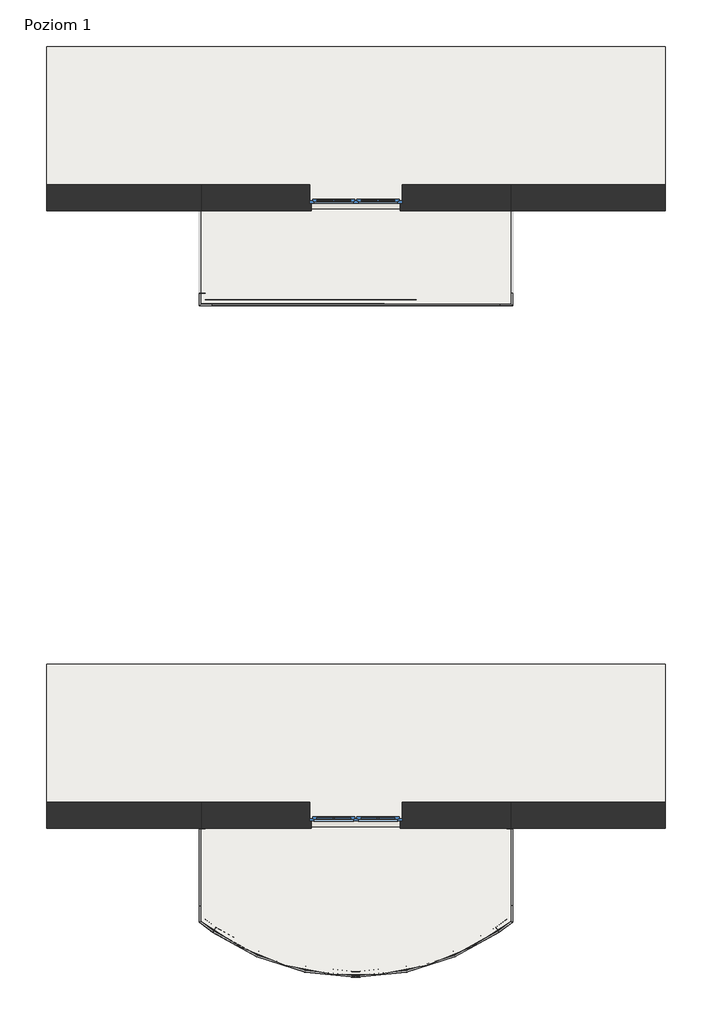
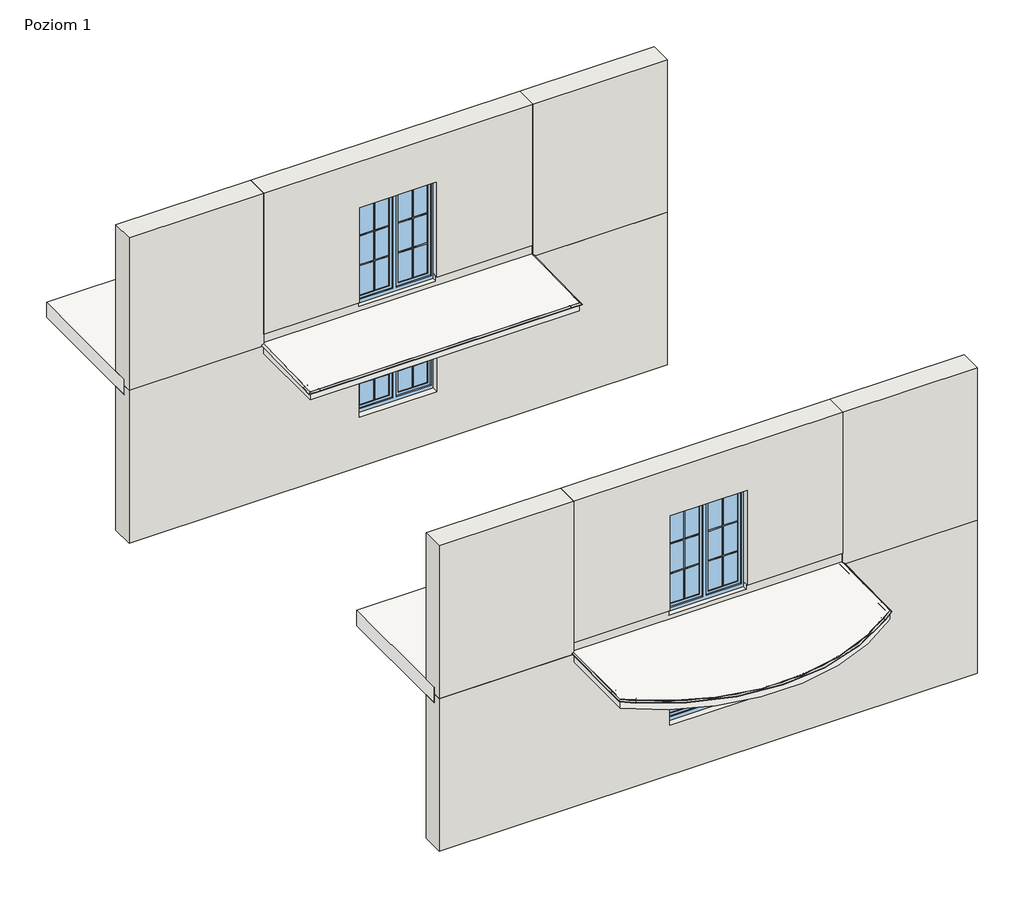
# One storey, part 1 of 3: 10 walls, 6 proxies, 4 slabs, 4 windows.
"""IFC4 building model written with IfcOpenShell, lengths in millimetres."""

from ifc_helpers import new_model, si_unit, frame, origin, place, context, project, spatial, circle_curve, ellipse_curve, faceted_brep, transform, mapped, element, save
from ifc_brep_helpers import plane_surface, cylinder_surface, advanced_brep
from components import k10_cc2a976c, k10_50ab023b, k10_6952bd4f, k10_43117dd3, opk10_a9e293d9, opk10_62074a0a, window_150x150_51b7f79a, window_150x200_12b14935

model = new_model("IFC4")

# Units and contexts
model_context = context("Model", 3, world=origin())
ifc_project = project(units=[si_unit("LENGTHUNIT", "METRE", prefix="MILLI")], contexts=[model_context])

# Site, building, storey
site = spatial("IfcSite", under=ifc_project)
building = spatial("IfcBuilding", under=site)
storey = spatial("IfcBuildingStorey", under=building, Name="Poziom 1", Elevation=0.0)

# Proxies
placement = place(None, origin())
k10_shape = k10_cc2a976c(model_context)
element("IfcBuildingElementProxy", 1, Name="K10 Profil okapowy prosty bez rynny : K10", ObjectType="K10 Profil okapowy prosty bez rynny : K10", at=placement, inside=storey, context=model_context, shape_type="MappedRepresentation", body=[
    mapped(k10_shape, transform((-109813.283815, 30865.2449587, -114.0), x_axis=(0.9999997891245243, -0.000649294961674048, -1.2921292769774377e-05), y_axis=(0.0006494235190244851, 0.9998018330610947, 0.01989655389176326), z_axis=(0.0, -0.019896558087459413, 0.9998020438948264))),
])
k10_2_shape = k10_50ab023b(model_context)
element("IfcBuildingElementProxy", 2, Name="K10 Profil okapowy prosty bez rynny : K10", ObjectType="K10 Profil okapowy prosty bez rynny : K10", at=placement, inside=storey, context=model_context, shape_type="MappedRepresentation", body=[
    mapped(k10_2_shape, transform((-104813.283815, 21133.3018143, -98.6625892), x_axis=(0.0, 0.9999247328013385, 0.012269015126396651), y_axis=(-1.0, 0.0, 0.0), z_axis=(0.0, -0.012269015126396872, 0.9999247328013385))),
])
k10_3_shape = k10_6952bd4f(model_context)
element("IfcBuildingElementProxy", 3, Name="K10 Profil okapowy prosty bez rynny : K10", ObjectType="K10 Profil okapowy prosty bez rynny : K10", at=placement, inside=storey, context=model_context, shape_type="MappedRepresentation", body=[
    mapped(k10_3_shape, transform((-109813.283815, 21133.4281621, -98.6610389), x_axis=(0.0, 0.9999247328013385, 0.012269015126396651), y_axis=(-1.0, 0.0, 0.0), z_axis=(0.0, -0.012269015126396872, 0.9999247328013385))),
])
k10_4_shape = k10_43117dd3(model_context)
element("IfcBuildingElementProxy", 4, Name="K10 Profil okapowy łukowy : K10", ObjectType="K10 Profil okapowy łukowy : K10", at=placement, inside=storey, context=model_context, shape_type="MappedRepresentation", body=[
    mapped(k10_4_shape, transform((-104813.283815, 20883.3028325, -101.7300613), x_axis=(-1.0, 0.0, 0.0), y_axis=(0.0, -0.9999247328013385, -0.012269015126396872), z_axis=(0.0, -0.012269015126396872, 0.9999247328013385))),
])
opk10_shape = opk10_a9e293d9(model_context)
element("IfcBuildingElementProxy", 5, Name="Odbojnik - OPK10 : OPK10", ObjectType="Odbojnik - OPK10 : OPK10", at=placement, inside=storey, context=model_context, shape_type="MappedRepresentation", body=[
    mapped(opk10_shape, transform((-104755.46477, 22376.9121913, -149.1888771), x_axis=(0.0, -0.9999247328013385, -0.012269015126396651), y_axis=(1.0, 0.0, 0.0), z_axis=(0.0, -0.012269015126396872, 0.9999247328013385))),
])
opk10_2_shape = opk10_62074a0a(model_context)
element("IfcBuildingElementProxy", 6, Name="Odbojnik - OPK10 : OPK10", ObjectType="Odbojnik - OPK10 : OPK10", at=placement, inside=storey, context=model_context, shape_type="MappedRepresentation", body=[
    mapped(opk10_2_shape, transform((-109871.10286, 22376.9121913, -149.1888771), x_axis=(0.0, -0.9999247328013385, -0.012269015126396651), y_axis=(1.0, 0.0, 0.0), z_axis=(0.0, -0.012269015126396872, 0.9999247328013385))),
])

# Slabs
element("IfcSlab", 7, ObjectType="Balkon - posadzka żywiczna cienkowarstwowa", at=placement, inside=storey, context=model_context, shape_type="Brep", body=[
    faceted_brep([(-109813.283815, 30865.2449587, -277.2), (-109813.283815, 32365.2449587, -277.2), (-109813.283815, 32473.2449587, -277.2), (-104813.283815, 32473.2449587, -277.2), (-104813.283815, 32365.2449587, -277.2), (-104813.283815, 30865.2449587, -277.2), (-109813.283815, 30865.2449587, -114.0), (-109813.283815, 32395.2449587, -83.5522388), (-109813.283815, 32473.2449587, -82.0), (-109813.283815, 32473.2449587, -125.0), (-104813.283815, 32473.2449587, -82.0), (-104813.283815, 32473.2449587, -125.0), (-104813.283815, 30865.2449587, -114.0), (-104813.283815, 32395.2449587, -83.5522388)], [[[0, 1, 2, 3, 4, 5]], [[2, 1, 0, 6, 7, 8, 9]], [[3, 2, 9, 8, 10, 11]], [[0, 5, 12, 6]], [[5, 4, 3, 11, 10, 13, 12]], [[12, 13, 10, 8, 7, 6]]]),
])
element("IfcSlab", 8, ObjectType="Balkon - posadzka żywiczna cienkowarstwowa", at=placement, inside=storey, context=model_context, shape_type="AdvancedBrep", body=[
    advanced_brep(
    [(-109813.283815, 22491.3028325, -277.2), (-104813.283815, 22491.3028325, -277.2), (-104813.283815, 22383.3028325, -277.2), (-104813.283815, 20883.3028325, -277.2), (-109813.283815, 20883.3028325, -277.2), (-109813.283815, 22383.3028325, -277.2), (-109813.283815, 22491.3028325, -82.0), (-109813.283815, 22491.3028325, -125.0), (-109813.283815, 20883.3028325, -101.7300613), (-109813.283815, 22413.3028325, -82.9570552), (-104813.283815, 22491.3028325, -82.0), (-104813.283815, 22491.3028325, -125.0), (-104813.283815, 22413.3028325, -82.9570552), (-104813.283815, 20883.3028325, -101.7300613)],
    [
        (0, 1),
        (1, 2),
        (2, 3),
        (3, 4, circle_curve(frame((-107313.283815, 24005.8018317, -277.2), z_axis=(0.0, 0.0, -1.0), x_axis=(1.0, 0.0, 0.0)), 4000.0)),
        (4, 5),
        (5, 0),
        (6, 7),
        (7, 0),
        (4, 8),
        (8, 9),
        (9, 6),
        (6, 10),
        (10, 11),
        (11, 1),
        (10, 12),
        (12, 13),
        (13, 3),
        (8, 13, ellipse_curve(frame((-107313.283815, 24005.8018317, -63.4171902), z_axis=(0.0, -0.012269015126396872, 0.9999247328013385), x_axis=(0.0, -0.9999247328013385, -0.012269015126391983)), 4000.3010915, 4000.0)),
    ],
    [
        plane_surface(frame((-109813.283815, 22491.3028325, -277.2), z_axis=(0.0, 0.0, -1.0), x_axis=(0.0, 1.0, 0.0))),
        plane_surface(frame((-109813.283815, 19883.3028325, -277.2), z_axis=(-1.0, 0.0, 0.0), x_axis=(0.0, 0.0, 1.0))),
        plane_surface(frame((-109813.283815, 22491.3028325, -277.2), z_axis=(0.0, 1.0, 0.0), x_axis=(0.0, 0.0, 1.0))),
        plane_surface(frame((-104813.283815, 22491.3028325, -277.2), z_axis=(1.0, 0.0, 0.0), x_axis=(0.0, 0.0, 1.0))),
        plane_surface(frame((-107313.283815, 21187.3028325, -98.0), z_axis=(0.0, -0.012269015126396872, 0.9999247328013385), x_axis=(0.0, 0.9999247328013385, 0.012269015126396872))),
        cylinder_surface(frame((-107313.283815, 24005.8018317, -582.0), z_axis=(0.0, 0.0, -1.0), x_axis=(1.0, 0.0, 0.0)), 4000.0),
    ],
    [
        (0, [[1, 2, 3, 4, 5, 6]]),
        (1, [[7, 8, -6, -5, 9, 10, 11]]),
        (2, [[-1, -8, -7, 12, 13, 14]]),
        (3, [[-14, -13, 15, 16, 17, -3, -2]]),
        (4, [[-12, -11, -10, 18, -16, -15]]),
        (5, [[-4, -17, -18, -9]]),
    ],
),
])
element("IfcSlab", 9, ObjectType="Strop", at=placement, inside=storey, context=model_context, shape_type="Brep", body=[
    faceted_brep([(-102313.283815, 32520.2449587, -300.0), (-112313.283815, 32520.2449587, -300.0), (-112313.283815, 32785.2449587, -300.0), (-112313.283815, 35020.2449587, -300.0), (-102313.283815, 35020.2449587, -300.0), (-102313.283815, 32785.2449587, -300.0), (-102313.283815, 32520.2449587, 0.0), (-102313.283815, 32785.2449587, 0.0), (-102313.283815, 35020.2449587, 0.0), (-112313.283815, 35020.2449587, 0.0), (-112313.283815, 32785.2449587, 0.0), (-112313.283815, 32520.2449587, 0.0), (-109813.283815, 32520.2449587, 0.0), (-108063.283815, 32520.2449587, 0.0), (-106563.283815, 32520.2449587, 0.0), (-104813.283815, 32520.2449587, 0.0), (-102313.283815, 32520.2449587, -125.0), (-112313.283815, 32520.2449587, -125.0)], [[[0, 1, 2, 3, 4, 5]], [[6, 7, 8, 9, 10, 11, 12, 13, 14, 15]], [[1, 0, 16, 6, 15, 14, 13, 12, 11, 17]], [[3, 2, 1, 17, 11, 10, 9]], [[4, 3, 9, 8]], [[0, 5, 4, 8, 7, 6, 16]]]),
])
element("IfcSlab", 10, ObjectType="Strop", at=placement, inside=storey, context=model_context, shape_type="Brep", body=[
    faceted_brep([(-102313.283815, 22538.3028325, -300.0), (-112313.283815, 22538.3028325, -300.0), (-112313.283815, 22803.3028325, -300.0), (-112313.283815, 25038.3028325, -300.0), (-102313.283815, 25038.3028325, -300.0), (-102313.283815, 22803.3028325, -300.0), (-102313.283815, 22538.3028325, 0.0), (-102313.283815, 22803.3028325, 0.0), (-102313.283815, 25038.3028325, 0.0), (-112313.283815, 25038.3028325, 0.0), (-112313.283815, 22803.3028325, 0.0), (-112313.283815, 22538.3028325, 0.0), (-109813.283815, 22538.3028325, 0.0), (-108063.283815, 22538.3028325, 0.0), (-106563.283815, 22538.3028325, 0.0), (-104813.283815, 22538.3028325, 0.0), (-102313.283815, 22538.3028325, -125.0), (-112313.283815, 22538.3028325, -125.0)], [[[0, 1, 2, 3, 4, 5]], [[6, 7, 8, 9, 10, 11, 12, 13, 14, 15]], [[1, 0, 16, 6, 15, 14, 13, 12, 11, 17]], [[3, 2, 1, 17, 11, 10, 9]], [[4, 3, 9, 8]], [[0, 5, 4, 8, 7, 6, 16]]]),
])

# Walls
element("IfcWall", 11, ObjectType="Porotherm P+W 25 + o15 + t", at=placement, inside=storey, context=model_context, shape_type="Brep", body=[
    faceted_brep([(-112313.283815, 32365.2449587, -3125.0), (-102313.283815, 32365.2449587, -3125.0), (-102313.283815, 32365.2449587, -125.0), (-104813.283815, 32365.2449587, -125.0), (-104813.283815, 32365.2449587, -277.2), (-109813.283815, 32365.2449587, -277.2), (-109813.283815, 32365.2449587, -125.0), (-112313.283815, 32365.2449587, -125.0), (-106593.283815, 32365.2449587, -680.0), (-106593.283815, 32365.2449587, -2150.0), (-108033.283815, 32365.2449587, -2150.0), (-108033.283815, 32365.2449587, -680.0), (-102313.283815, 32785.2449587, -3125.0), (-112313.283815, 32785.2449587, -3125.0), (-112313.283815, 32785.2449587, -300.0), (-102313.283815, 32785.2449587, -300.0), (-106563.283815, 32785.2449587, -2150.0), (-106563.283815, 32785.2449587, -650.0), (-108063.283815, 32785.2449587, -650.0), (-108063.283815, 32785.2449587, -2150.0), (-102313.283815, 32520.2449587, -300.0), (-102313.283815, 32520.2449587, -125.0), (-104813.283815, 32520.2449587, -125.0), (-109813.283815, 32520.2449587, -125.0), (-112313.283815, 32520.2449587, -125.0), (-109813.283815, 32473.2449587, -125.0), (-104813.283815, 32473.2449587, -125.0), (-112313.283815, 32520.2449587, -300.0), (-106563.283815, 32485.2449587, -650.0), (-106563.283815, 32485.2449587, -2150.0), (-106593.283815, 32485.2449587, -680.0), (-106593.283815, 32485.2449587, -2150.0), (-104813.283815, 32473.2449587, -277.2), (-109813.283815, 32473.2449587, -277.2), (-108063.283815, 32485.2449587, -650.0), (-108063.283815, 32485.2449587, -2150.0), (-108033.283815, 32485.2449587, -2150.0), (-108033.283815, 32485.2449587, -680.0)], [[[0, 1, 2, 3, 4, 5, 6, 7], [8, 9, 10, 11]], [[12, 13, 14, 15], [16, 17, 18, 19]], [[1, 0, 13, 12]], [[2, 1, 12, 15, 20, 21]], [[2, 21, 22, 23, 24, 7, 6, 25, 26, 3]], [[0, 7, 24, 27, 14, 13]], [[28, 17, 16, 29]], [[8, 30, 31, 9]], [[27, 20, 15, 14]], [[20, 27, 24, 23, 22, 21]], [[32, 33, 5, 4]], [[5, 33, 25, 6]], [[33, 32, 26, 25]], [[32, 4, 3, 26]], [[17, 28, 34, 18]], [[29, 16, 19, 35, 36, 10, 9, 31]], [[34, 28, 29, 31, 30, 37, 36, 35]], [[34, 35, 19, 18]], [[30, 8, 11, 37]], [[10, 36, 37, 11]]]),
])
element("IfcWall", 12, ObjectType="Porotherm P+W 25 + o15 + t", at=placement, inside=storey, context=model_context, shape_type="Brep", body=[
    faceted_brep([(-112313.283815, 32365.2449587, -125.0), (-109813.283815, 32365.2449587, -125.0), (-109813.283815, 32365.2449587, 100.0), (-109813.283815, 32365.2449587, 2875.0), (-112313.283815, 32365.2449587, 2875.0), (-112313.283815, 32785.2449587, 2875.0), (-109813.283815, 32785.2449587, 2875.0), (-109813.283815, 32785.2449587, 100.0), (-109813.283815, 32785.2449587, 0.0), (-112313.283815, 32785.2449587, 0.0), (-112313.283815, 32520.2449587, -125.0), (-109813.283815, 32520.2449587, -125.0), (-109813.283815, 32473.2449587, -125.0), (-112313.283815, 32520.2449587, 0.0), (-109813.283815, 32520.2449587, 0.0)], [[[0, 1, 2, 3, 4]], [[5, 6, 7, 8, 9]], [[1, 0, 10, 11, 12]], [[4, 3, 6, 5]], [[0, 4, 5, 9, 13, 10]], [[14, 13, 9, 8]], [[13, 14, 11, 10]], [[6, 3, 2, 1, 12, 11, 14, 8, 7]]]),
])
element("IfcWall", 13, ObjectType="Porotherm P+W 25 + o15 + t", at=placement, inside=storey, context=model_context, shape_type="Brep", body=[
    faceted_brep([(-104813.283815, 32365.2449587, -125.0), (-102313.283815, 32365.2449587, -125.0), (-102313.283815, 32365.2449587, 2875.0), (-104813.283815, 32365.2449587, 2875.0), (-104813.283815, 32365.2449587, 100.0), (-104813.283815, 32785.2449587, 2875.0), (-102313.283815, 32785.2449587, 2875.0), (-102313.283815, 32785.2449587, 0.0), (-104813.283815, 32785.2449587, 0.0), (-104813.283815, 32785.2449587, 100.0), (-104813.283815, 32473.2449587, -125.0), (-104813.283815, 32520.2449587, -125.0), (-102313.283815, 32520.2449587, -125.0), (-102313.283815, 32520.2449587, 0.0), (-104813.283815, 32520.2449587, 0.0)], [[[0, 1, 2, 3, 4]], [[5, 6, 7, 8, 9]], [[1, 0, 10, 11, 12]], [[2, 1, 12, 13, 7, 6]], [[3, 2, 6, 5]], [[13, 14, 8, 7]], [[14, 13, 12, 11]], [[3, 5, 9, 8, 14, 11, 10, 0, 4]]]),
])
element("IfcWall", 14, ObjectType="Porotherm P+W 25 + o12 + t", at=placement, inside=storey, context=model_context, shape_type="Brep", body=[
    faceted_brep([(-104813.283815, 32395.2449587, -83.5522388), (-104813.283815, 32395.2449587, 100.0), (-106593.283815, 32395.2449587, 100.0), (-106593.283815, 32395.2449587, 0.0), (-108033.283815, 32395.2449587, 0.0), (-108033.283815, 32395.2449587, 100.0), (-109813.283815, 32395.2449587, 100.0), (-109813.283815, 32395.2449587, -83.5522388), (-106563.283815, 32785.2449587, 100.0), (-104813.283815, 32785.2449587, 100.0), (-104813.283815, 32785.2449587, 0.0), (-106563.283815, 32785.2449587, 0.0), (-109813.283815, 32785.2449587, 100.0), (-108063.283815, 32785.2449587, 100.0), (-108063.283815, 32785.2449587, 0.0), (-109813.283815, 32785.2449587, 0.0), (-104813.283815, 32473.2449587, -125.0), (-109813.283815, 32473.2449587, -125.0), (-109813.283815, 32520.2449587, -125.0), (-104813.283815, 32520.2449587, -125.0), (-104813.283815, 32473.2449587, -82.0), (-104813.283815, 32520.2449587, 0.0), (-106563.283815, 32485.2449587, 100.0), (-106593.283815, 32485.2449587, 100.0), (-108033.283815, 32485.2449587, 100.0), (-108063.283815, 32485.2449587, 100.0), (-109813.283815, 32520.2449587, 0.0), (-109813.283815, 32473.2449587, -82.0), (-106563.283815, 32520.2449587, 0.0), (-108063.283815, 32520.2449587, 0.0), (-108063.283815, 32485.2449587, 0.0), (-108033.283815, 32485.2449587, 0.0), (-106593.283815, 32485.2449587, 0.0), (-106563.283815, 32485.2449587, 0.0)], [[[0, 1, 2, 3, 4, 5, 6, 7]], [[8, 9, 10, 11]], [[12, 13, 14, 15]], [[16, 17, 18, 19]], [[9, 1, 0, 20, 16, 19, 21, 10]], [[1, 9, 8, 22, 23, 2]], [[12, 6, 5, 24, 25, 13]], [[6, 12, 15, 26, 18, 17, 27, 7]], [[20, 27, 17, 16]], [[27, 20, 0, 7]], [[21, 28, 11, 10]], [[29, 26, 15, 14]], [[28, 21, 19, 18, 26, 29]], [[30, 31, 4, 3, 32, 33, 28, 29]], [[31, 30, 25, 24]], [[33, 32, 23, 22]], [[33, 22, 8, 11, 28]], [[25, 30, 29, 14, 13]], [[32, 3, 2, 23]], [[4, 31, 24, 5]]]),
])
element("IfcWall", 15, ObjectType="Porotherm P+W 25 + o15 + t", at=placement, inside=storey, context=model_context, shape_type="Brep", body=[
    faceted_brep([(-104813.283815, 32365.2449587, 100.0), (-104813.283815, 32365.2449587, 2875.0), (-109813.283815, 32365.2449587, 2875.0), (-109813.283815, 32365.2449587, 100.0), (-108033.283815, 32365.2449587, 100.0), (-108033.283815, 32365.2449587, 1970.0), (-106593.283815, 32365.2449587, 1970.0), (-106593.283815, 32365.2449587, 100.0), (-104813.283815, 32785.2449587, 2875.0), (-104813.283815, 32785.2449587, 100.0), (-106563.283815, 32785.2449587, 100.0), (-106563.283815, 32785.2449587, 2000.0), (-108063.283815, 32785.2449587, 2000.0), (-108063.283815, 32785.2449587, 100.0), (-109813.283815, 32785.2449587, 100.0), (-109813.283815, 32785.2449587, 2875.0), (-109813.283815, 32395.2449587, 100.0), (-108063.283815, 32485.2449587, 100.0), (-108033.283815, 32485.2449587, 100.0), (-108033.283815, 32395.2449587, 100.0), (-104813.283815, 32395.2449587, 100.0), (-106593.283815, 32395.2449587, 100.0), (-106593.283815, 32485.2449587, 100.0), (-106563.283815, 32485.2449587, 100.0), (-106563.283815, 32485.2449587, 2000.0), (-106593.283815, 32485.2449587, 1970.0), (-108063.283815, 32485.2449587, 2000.0), (-108033.283815, 32485.2449587, 1970.0)], [[[0, 1, 2, 3, 4, 5, 6, 7]], [[8, 9, 10, 11, 12, 13, 14, 15]], [[3, 16, 14, 13, 17, 18, 19, 4]], [[9, 20, 0, 7, 21, 22, 23, 10]], [[1, 0, 20, 9, 8]], [[2, 1, 8, 15]], [[3, 2, 15, 14, 16]], [[24, 11, 10, 23]], [[6, 25, 22, 21, 7]], [[26, 12, 11, 24]], [[26, 24, 23, 22, 25, 27, 18, 17]], [[12, 26, 17, 13]], [[27, 25, 6, 5]], [[27, 5, 4, 19, 18]]]),
])
element("IfcWall", 16, ObjectType="Porotherm P+W 25 + o15 + t", at=placement, inside=storey, context=model_context, shape_type="Brep", body=[
    faceted_brep([(-112313.283815, 22383.3028325, -3125.0), (-102313.283815, 22383.3028325, -3125.0), (-102313.283815, 22383.3028325, -125.0), (-104813.283815, 22383.3028325, -125.0), (-104813.283815, 22383.3028325, -277.2), (-109813.283815, 22383.3028325, -277.2), (-109813.283815, 22383.3028325, -125.0), (-112313.283815, 22383.3028325, -125.0), (-106593.283815, 22383.3028325, -680.0), (-106593.283815, 22383.3028325, -2150.0), (-108033.283815, 22383.3028325, -2150.0), (-108033.283815, 22383.3028325, -680.0), (-102313.283815, 22803.3028325, -3125.0), (-112313.283815, 22803.3028325, -3125.0), (-112313.283815, 22803.3028325, -300.0), (-102313.283815, 22803.3028325, -300.0), (-106563.283815, 22803.3028325, -2150.0), (-106563.283815, 22803.3028325, -650.0), (-108063.283815, 22803.3028325, -650.0), (-108063.283815, 22803.3028325, -2150.0), (-106563.283815, 22503.3028325, -650.0), (-106563.283815, 22503.3028325, -2150.0), (-106593.283815, 22503.3028325, -680.0), (-106593.283815, 22503.3028325, -2150.0), (-112313.283815, 22538.3028325, -300.0), (-102313.283815, 22538.3028325, -300.0), (-112313.283815, 22538.3028325, -125.0), (-109813.283815, 22538.3028325, -125.0), (-104813.283815, 22538.3028325, -125.0), (-102313.283815, 22538.3028325, -125.0), (-104813.283815, 22491.3028325, -277.2), (-109813.283815, 22491.3028325, -277.2), (-109813.283815, 22491.3028325, -125.0), (-104813.283815, 22491.3028325, -125.0), (-108063.283815, 22503.3028325, -650.0), (-108063.283815, 22503.3028325, -2150.0), (-108033.283815, 22503.3028325, -2150.0), (-108033.283815, 22503.3028325, -680.0)], [[[0, 1, 2, 3, 4, 5, 6, 7], [8, 9, 10, 11]], [[12, 13, 14, 15], [16, 17, 18, 19]], [[20, 17, 16, 21]], [[8, 22, 23, 9]], [[24, 25, 15, 14]], [[25, 24, 26, 27, 28, 29]], [[30, 31, 5, 4]], [[5, 31, 32, 6]], [[31, 30, 33, 32]], [[30, 4, 3, 33]], [[17, 20, 34, 18]], [[21, 16, 19, 35, 36, 10, 9, 23]], [[34, 20, 21, 23, 22, 37, 36, 35]], [[34, 35, 19, 18]], [[22, 8, 11, 37]], [[10, 36, 37, 11]], [[1, 0, 13, 12]], [[2, 1, 12, 15, 25, 29]], [[2, 29, 28, 27, 26, 7, 6, 32, 33, 3]], [[0, 7, 26, 24, 14, 13]]]),
])
element("IfcWall", 17, ObjectType="Porotherm P+W 25 + o15 + t", at=placement, inside=storey, context=model_context, shape_type="Brep", body=[
    faceted_brep([(-112313.283815, 22383.3028325, -125.0), (-109813.283815, 22383.3028325, -125.0), (-109813.283815, 22383.3028325, -83.3251534), (-109813.283815, 22383.3028325, 100.0), (-109813.283815, 22383.3028325, 2875.0), (-112313.283815, 22383.3028325, 2875.0), (-112313.283815, 22803.3028325, 2875.0), (-109813.283815, 22803.3028325, 2875.0), (-109813.283815, 22803.3028325, 100.0), (-109813.283815, 22803.3028325, 0.0), (-112313.283815, 22803.3028325, 0.0), (-112313.283815, 22538.3028325, -125.0), (-109813.283815, 22538.3028325, -125.0), (-109813.283815, 22491.3028325, -125.0), (-112313.283815, 22538.3028325, 0.0), (-109813.283815, 22538.3028325, 0.0)], [[[0, 1, 2, 3, 4, 5]], [[6, 7, 8, 9, 10]], [[1, 0, 11, 12, 13]], [[5, 4, 7, 6]], [[0, 5, 6, 10, 14, 11]], [[10, 9, 15, 14]], [[12, 11, 14, 15]], [[7, 4, 3, 2, 1, 13, 12, 15, 9, 8]]]),
])
element("IfcWall", 18, ObjectType="Porotherm P+W 25 + o15 + t", at=placement, inside=storey, context=model_context, shape_type="Brep", body=[
    faceted_brep([(-104813.283815, 22383.3028325, -125.0), (-102313.283815, 22383.3028325, -125.0), (-102313.283815, 22383.3028325, 2875.0), (-104813.283815, 22383.3028325, 2875.0), (-104813.283815, 22383.3028325, 100.0), (-104813.283815, 22803.3028325, 2875.0), (-102313.283815, 22803.3028325, 2875.0), (-102313.283815, 22803.3028325, 0.0), (-104813.283815, 22803.3028325, 0.0), (-104813.283815, 22803.3028325, 100.0), (-104813.283815, 22491.3028325, -125.0), (-104813.283815, 22538.3028325, -125.0), (-102313.283815, 22538.3028325, -125.0), (-102313.283815, 22538.3028325, 0.0), (-104813.283815, 22538.3028325, 0.0)], [[[0, 1, 2, 3, 4]], [[5, 6, 7, 8, 9]], [[1, 0, 10, 11, 12]], [[2, 1, 12, 13, 7, 6]], [[3, 2, 6, 5]], [[13, 14, 8, 7]], [[14, 13, 12, 11]], [[3, 5, 9, 8, 14, 11, 10, 0, 4]]]),
])
element("IfcWall", 19, ObjectType="Porotherm P+W 25 + o12 + t", at=placement, inside=storey, context=model_context, shape_type="Brep", body=[
    faceted_brep([(-104813.283815, 22413.3028325, -82.9570552), (-104813.283815, 22413.3028325, 100.0), (-106593.283815, 22413.3028325, 100.0), (-106593.283815, 22413.3028325, 0.0), (-108033.283815, 22413.3028325, 0.0), (-108033.283815, 22413.3028325, 100.0), (-109813.283815, 22413.3028325, 100.0), (-109813.283815, 22413.3028325, -82.9570552), (-106563.283815, 22803.3028325, 100.0), (-104813.283815, 22803.3028325, 100.0), (-104813.283815, 22803.3028325, 0.0), (-106563.283815, 22803.3028325, 0.0), (-109813.283815, 22803.3028325, 100.0), (-108063.283815, 22803.3028325, 100.0), (-108063.283815, 22803.3028325, 0.0), (-109813.283815, 22803.3028325, 0.0), (-104813.283815, 22491.3028325, -125.0), (-109813.283815, 22491.3028325, -125.0), (-109813.283815, 22538.3028325, -125.0), (-104813.283815, 22538.3028325, -125.0), (-104813.283815, 22491.3028325, -82.0), (-104813.283815, 22538.3028325, 0.0), (-106563.283815, 22503.3028325, 100.0), (-106593.283815, 22503.3028325, 100.0), (-108033.283815, 22503.3028325, 100.0), (-108063.283815, 22503.3028325, 100.0), (-109813.283815, 22538.3028325, 0.0), (-109813.283815, 22491.3028325, -82.0), (-106563.283815, 22538.3028325, 0.0), (-108063.283815, 22538.3028325, 0.0), (-108063.283815, 22503.3028325, 0.0), (-108033.283815, 22503.3028325, 0.0), (-106593.283815, 22503.3028325, 0.0), (-106563.283815, 22503.3028325, 0.0)], [[[0, 1, 2, 3, 4, 5, 6, 7]], [[8, 9, 10, 11]], [[12, 13, 14, 15]], [[16, 17, 18, 19]], [[9, 1, 0, 20, 16, 19, 21, 10]], [[1, 9, 8, 22, 23, 2]], [[12, 6, 5, 24, 25, 13]], [[6, 12, 15, 26, 18, 17, 27, 7]], [[20, 27, 17, 16]], [[27, 20, 0, 7]], [[21, 28, 11, 10]], [[29, 26, 15, 14]], [[28, 21, 19, 18, 26, 29]], [[30, 31, 4, 3, 32, 33, 28, 29]], [[31, 30, 25, 24]], [[33, 32, 23, 22]], [[33, 22, 8, 11, 28]], [[25, 30, 29, 14, 13]], [[32, 3, 2, 23]], [[4, 31, 24, 5]]]),
])
element("IfcWall", 20, ObjectType="Porotherm P+W 25 + o15 + t", at=placement, inside=storey, context=model_context, shape_type="Brep", body=[
    faceted_brep([(-104813.283815, 22383.3028325, 100.0), (-104813.283815, 22383.3028325, 2875.0), (-109813.283815, 22383.3028325, 2875.0), (-109813.283815, 22383.3028325, 100.0), (-108033.283815, 22383.3028325, 100.0), (-108033.283815, 22383.3028325, 1970.0), (-106593.283815, 22383.3028325, 1970.0), (-106593.283815, 22383.3028325, 100.0), (-104813.283815, 22803.3028325, 2875.0), (-104813.283815, 22803.3028325, 100.0), (-106563.283815, 22803.3028325, 100.0), (-106563.283815, 22803.3028325, 2000.0), (-108063.283815, 22803.3028325, 2000.0), (-108063.283815, 22803.3028325, 100.0), (-109813.283815, 22803.3028325, 100.0), (-109813.283815, 22803.3028325, 2875.0), (-109813.283815, 22413.3028325, 100.0), (-108063.283815, 22503.3028325, 100.0), (-108033.283815, 22503.3028325, 100.0), (-108033.283815, 22413.3028325, 100.0), (-104813.283815, 22413.3028325, 100.0), (-106593.283815, 22413.3028325, 100.0), (-106593.283815, 22503.3028325, 100.0), (-106563.283815, 22503.3028325, 100.0), (-106563.283815, 22503.3028325, 2000.0), (-106593.283815, 22503.3028325, 1970.0), (-108063.283815, 22503.3028325, 2000.0), (-108033.283815, 22503.3028325, 1970.0)], [[[0, 1, 2, 3, 4, 5, 6, 7]], [[8, 9, 10, 11, 12, 13, 14, 15]], [[3, 16, 14, 13, 17, 18, 19, 4]], [[9, 20, 0, 7, 21, 22, 23, 10]], [[1, 0, 20, 9, 8]], [[2, 1, 8, 15]], [[3, 2, 15, 14, 16]], [[24, 11, 10, 23]], [[6, 25, 22, 21, 7]], [[26, 12, 11, 24]], [[26, 24, 23, 22, 25, 27, 18, 17]], [[12, 26, 17, 13]], [[27, 25, 6, 5]], [[27, 5, 4, 19, 18]]]),
])

# Windows
window_150x150_shape = window_150x150_51b7f79a(model_context)
element("IfcWindow", 21, ObjectType="OKNO_2X_W_SZ : 150x150", at=placement, inside=storey, context=model_context, shape_type="MappedRepresentation", body=[
    mapped(window_150x150_shape, transform((-107313.283815, 32575.2449587, -3000.0), x_axis=(-1.0, 0.0, 0.0), y_axis=(0.0, -1.0, 0.0), z_axis=(0.0, 0.0, 1.0))),
])
element("IfcWindow", 22, ObjectType="OKNO_2X_W_SZ : 150x150", at=placement, inside=storey, context=model_context, shape_type="MappedRepresentation", body=[
    mapped(window_150x150_shape, transform((-107313.283815, 22593.3028325, -3000.0), x_axis=(-1.0, 0.0, 0.0), y_axis=(0.0, -1.0, 0.0), z_axis=(0.0, 0.0, 1.0))),
])
window_150x200_shape = window_150x200_12b14935(model_context)
element("IfcWindow", 23, ObjectType="OKNO_2X_W_SZ : 150x200", at=placement, inside=storey, context=model_context, shape_type="MappedRepresentation", body=[
    mapped(window_150x200_shape, transform((-107313.283815, 32575.2449587, -850.0), x_axis=(-1.0, 0.0, 0.0), y_axis=(0.0, -1.0, 0.0), z_axis=(0.0, 0.0, 1.0))),
])
element("IfcWindow", 24, ObjectType="OKNO_2X_W_SZ : 150x200", at=placement, inside=storey, context=model_context, shape_type="MappedRepresentation", body=[
    mapped(window_150x200_shape, transform((-107313.283815, 22593.3028325, -850.0), x_axis=(-1.0, 0.0, 0.0), y_axis=(0.0, -1.0, 0.0), z_axis=(0.0, 0.0, 1.0))),
])

save(model, "model.ifc")
